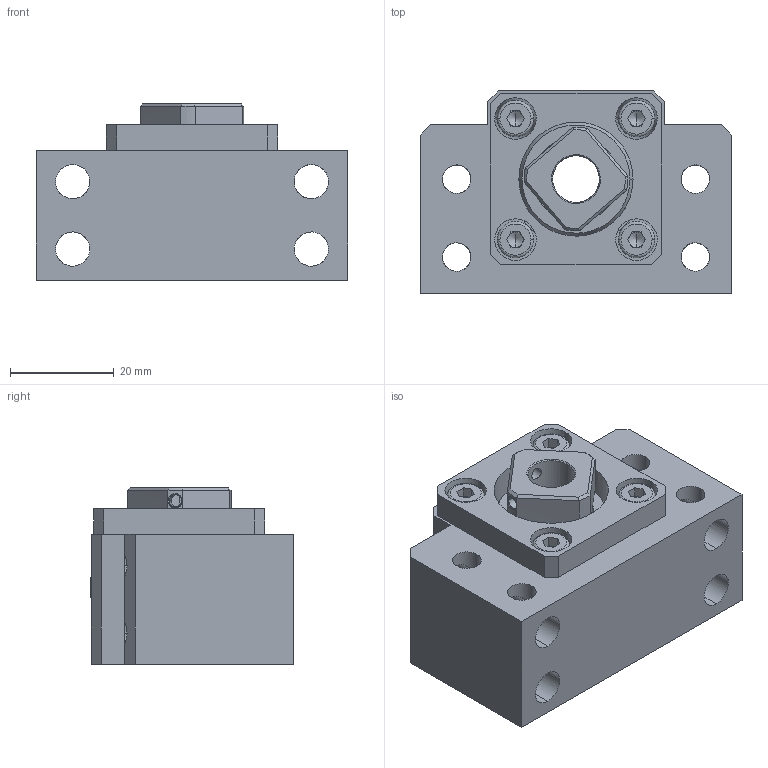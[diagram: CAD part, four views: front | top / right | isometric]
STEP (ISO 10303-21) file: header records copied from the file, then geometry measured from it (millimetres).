
FILE_DESCRIPTION (( 'STEP AP214' ), '1' );
FILE_NAME ('7.4001 BK10.STEP', '2026-03-05T13:14:22', ( '' ), ( '' ), 'SwSTEP 2.0', 'SolidWorks 2025', '' );
FILE_SCHEMA (( 'AUTOMOTIVE_DESIGN' ));
Length unit declared in the file: millimetre
Products named in the file (1): 7.4001 BK10
Bounding box: 60 x 39.1 x 34 mm (x, y, z)
Surface area: 16387.8 mm2 (no closed solid volume)
Topology: 0 solids, 18 shells, 264 faces, 776 edges, 495 vertices
Faces by surface type: plane 113, cylinder 70, bspline 40, cone 33, sphere 8
Entity records: 20036 total; most frequent: CARTESIAN_POINT 13434, ORIENTED_EDGE 1393, EDGE_CURVE 748, B_SPLINE_CURVE_WITH_KNOTS 708, VERTEX_POINT 495, DIRECTION 466, EDGE_LOOP 306, ADVANCED_FACE 264
